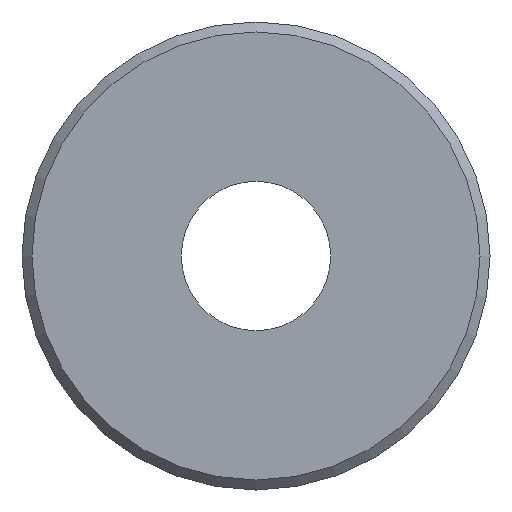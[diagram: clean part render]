
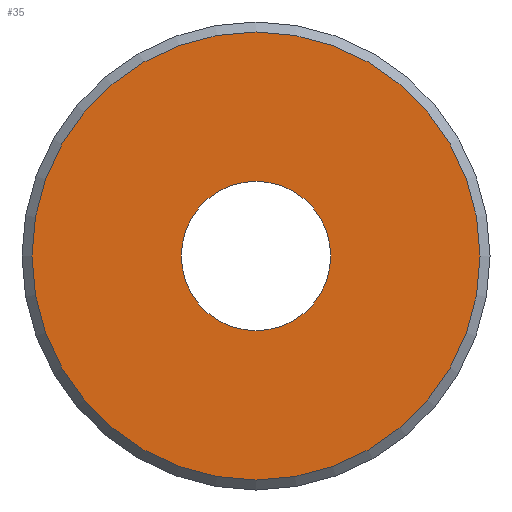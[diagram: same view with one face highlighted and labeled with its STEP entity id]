
A CAD part, front view. The second image highlights one B-rep face of the part: STEP entity #35.
In plain terms, the highlighted planar face has unit normal (0, -1, 0).
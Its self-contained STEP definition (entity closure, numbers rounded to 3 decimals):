
#35 = ADVANCED_FACE( '', ( #72, #73 ), #74, .F. );
#72 = FACE_OUTER_BOUND( '', #115, .T. );
#73 = FACE_BOUND( '', #116, .T. );
#74 = PLANE( '', #117 );
#115 = EDGE_LOOP( '', ( #154 ) );
#116 = EDGE_LOOP( '', ( #155 ) );
#117 = AXIS2_PLACEMENT_3D( '', #156, #157, #158 );
#154 = ORIENTED_EDGE( '', *, *, #205, .T. );
#155 = ORIENTED_EDGE( '', *, *, #202, .T. );
#156 = CARTESIAN_POINT( '', ( 0., -30., 0. ) );
#157 = DIRECTION( '', ( 0., 1., 0. ) );
#158 = DIRECTION( '', ( 0., 0., 1. ) );
#202 = EDGE_CURVE( '', #220, #220, #221, .T. );
#205 = EDGE_CURVE( '', #225, #225, #226, .F. );
#220 = VERTEX_POINT( '', #247 );
#221 = CIRCLE( '', #248, 7.5 );
#225 = VERTEX_POINT( '', #252 );
#226 = CIRCLE( '', #253, 22.5 );
#247 = CARTESIAN_POINT( '', ( 7.5, -30., 0. ) );
#248 = AXIS2_PLACEMENT_3D( '', #273, #274, #275 );
#252 = CARTESIAN_POINT( '', ( 0., -30., 22.5 ) );
#253 = AXIS2_PLACEMENT_3D( '', #279, #280, #281 );
#273 = CARTESIAN_POINT( '', ( 0., -30., 0. ) );
#274 = DIRECTION( '', ( 0., 1., 0. ) );
#275 = DIRECTION( '', ( 1., 0., 0. ) );
#279 = CARTESIAN_POINT( '', ( 0., -30., 0. ) );
#280 = DIRECTION( '', ( 0., 1., 0. ) );
#281 = DIRECTION( '', ( 0., 0., 1. ) );
